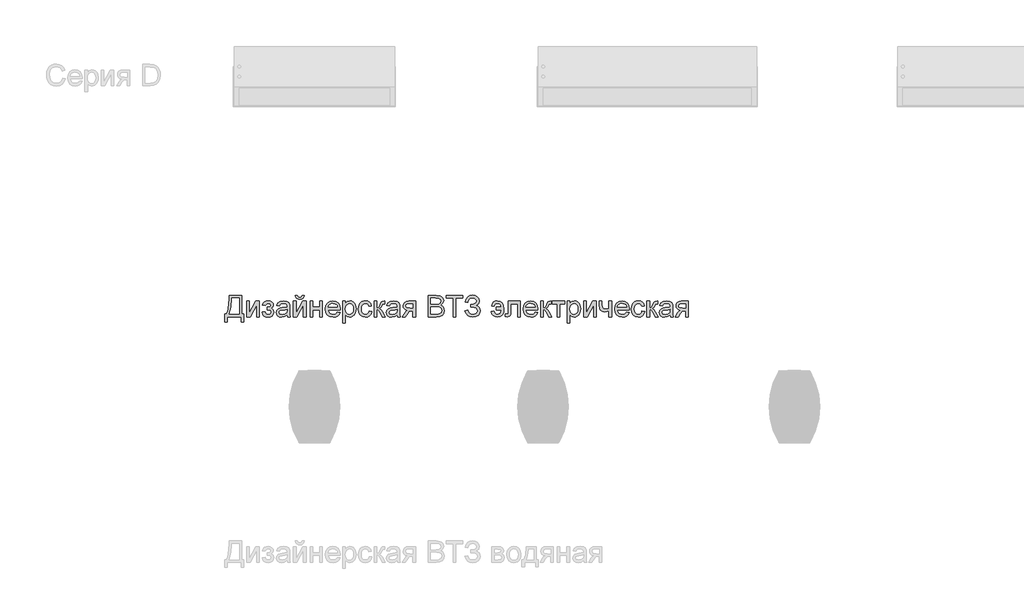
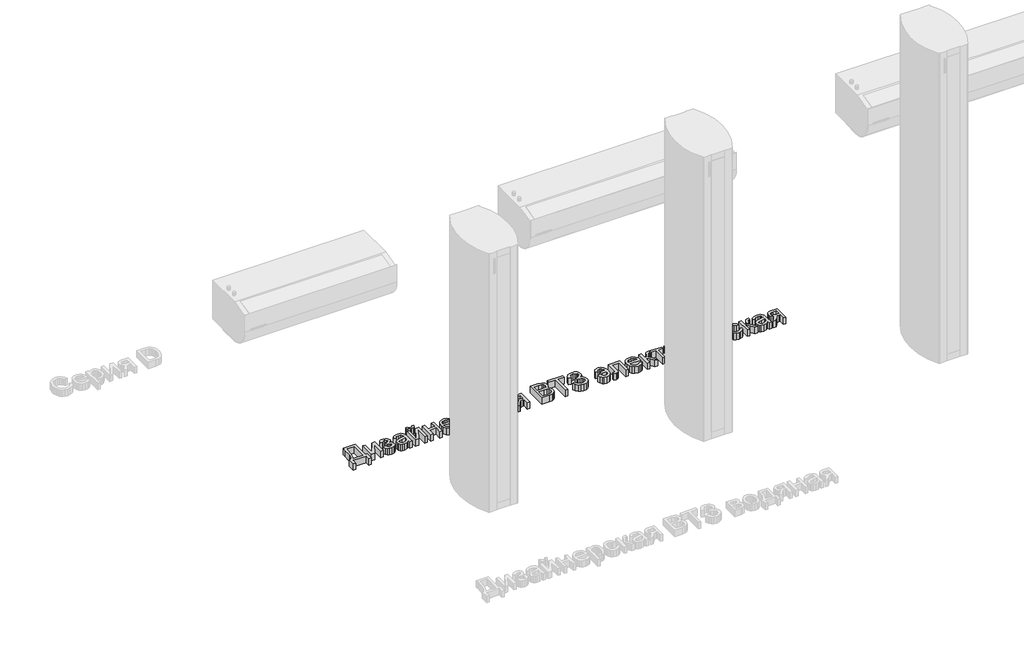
# One storey, part 4 of 6: 1 proxy.
"""IFC4 building model written with IfcOpenShell, lengths in millimetres."""

from ifc_helpers import new_model, si_unit, origin, origin_with_axes, place, context, project, spatial, polyline, outline, extrude, element, save

model = new_model("IFC4")

# Units and contexts
model_context = context("Model", 3, world=origin())
ifc_project = project(units=[si_unit("LENGTHUNIT", "METRE", prefix="MILLI")], contexts=[model_context])

# Site, building, storey
site = spatial("IfcSite", under=ifc_project)
building = spatial("IfcBuilding", under=site)
storey = spatial("IfcBuildingStorey", under=building, Name="Уровень 1", Elevation=0.0)

# Proxy
placement = place(None, origin())
element("IfcBuildingElementProxy", 1, Name="600 мм Arial", ObjectType="600 мм Arial", at=placement, inside=storey, context=model_context, shape_type="SweptSolid", body=[
    extrude(outline(polyline([(-13728.2393445, -1203.3925368), (-13640.5470368, -1203.3925368), (-13640.5470368, -1332.6233061), (-13626.700883, -1332.6233061), (-13626.700883, -1385.7002291), (-13645.1624214, -1385.7002291), (-13645.1624214, -1351.0848445), (-13739.777806, -1351.0848445), (-13739.777806, -1385.7002291), (-13758.2393445, -1385.7002291), (-13758.2393445, -1332.6233061), (-13746.700883, -1332.6233061), (-13738.6239599, -1315.8767616), (-13732.8547291, -1292.3198205), (-13728.2393445, -1224.7747484), (-13728.2393445, -1203.3925368)]), holes=[polyline([(-13659.0085753, -1221.8540753), (-13709.777806, -1221.8540753), (-13709.777806, -1229.2819599), (-13713.527806, -1279.8709022), (-13719.0806907, -1309.1046762), (-13728.2393445, -1332.6233061), (-13659.0085753, -1332.6233061), (-13659.0085753, -1221.8540753)])]), origin_with_axes(), (0.0, 0.0, 1.0), 50.0),
    extrude(outline(polyline([(-13605.9316522, -1242.6233061), (-13587.4701137, -1242.6233061), (-13587.4701137, -1325.3396522), (-13542.1095368, -1242.6233061), (-13518.2393445, -1242.6233061), (-13518.2393445, -1351.0848445), (-13536.700883, -1351.0848445), (-13536.700883, -1268.8733061), (-13581.7729983, -1351.0848445), (-13605.9316522, -1351.0848445), (-13605.9316522, -1242.6233061)])), origin_with_axes(), (0.0, 0.0, 1.0), 50.0),
    extrude(outline(polyline([(-13465.1624214, -1302.6233061), (-13465.1624214, -1284.1617676), (-13450.5951137, -1283.4406137), (-13443.2393445, -1279.6004695), (-13439.777806, -1271.577633), (-13444.4112195, -1262.2567195), (-13456.3643445, -1258.7771522), (-13468.7141041, -1262.2386907), (-13476.700883, -1272.6233061), (-13497.4701137, -1270.3156137), (-13491.9623012, -1257.1906137), (-13483.5879022, -1247.8156137), (-13472.3469166, -1242.1906137), (-13458.2393445, -1240.3156137), (-13442.8066522, -1242.60077), (-13431.1239599, -1249.4562387), (-13423.7681907, -1259.4847844), (-13421.3162676, -1271.2891714), (-13424.8048493, -1282.7555176), (-13435.2705945, -1291.6257099), (-13423.0650657, -1303.1281137), (-13419.0085753, -1319.6785945), (-13421.5821931, -1333.2678373), (-13429.3030464, -1344.0355657), (-13441.6482988, -1351.053294), (-13458.0951137, -1353.3925368), (-13474.1813517, -1351.2290753), (-13486.4905464, -1344.7386907), (-13495.0226979, -1333.921383), (-13499.777806, -1318.7771522), (-13479.0085753, -1316.4694599), (-13470.6792483, -1330.0992676), (-13456.3282868, -1334.9309984), (-13442.8427099, -1330.2975849), (-13437.4701137, -1318.452633), (-13440.8054503, -1308.7531137), (-13447.9088157, -1303.5608061), (-13461.5566522, -1302.515133), (-13465.1624214, -1302.6233061)])), origin_with_axes(), (0.0, 0.0, 1.0), 50.0),
    extrude(outline(polyline([(-13326.700883, -1337.2386907), (-13344.6035272, -1349.7507099), (-13364.3811714, -1353.3925368), (-13379.8093565, -1351.202032), (-13391.1900657, -1344.6305176), (-13398.207794, -1334.6515512), (-13400.5470368, -1322.2386907), (-13397.013383, -1307.6353253), (-13387.7285272, -1297.0343637), (-13374.8018445, -1290.9766714), (-13358.8282868, -1288.2002291), (-13326.809056, -1281.8540753), (-13326.700883, -1277.7434984), (-13327.9719166, -1269.5043157), (-13331.7850176, -1264.1136907), (-13340.3126618, -1260.1112868), (-13352.1936714, -1258.7771522), (-13370.871556, -1262.3288349), (-13379.777806, -1274.9309984), (-13398.2393445, -1272.6233061), (-13390.2525657, -1254.5944599), (-13374.1708349, -1244.0295561), (-13349.8138637, -1240.3156137), (-13327.4400657, -1243.5968637), (-13314.8018445, -1251.8360464), (-13309.1407868, -1264.3660945), (-13308.2393445, -1280.5199407), (-13308.2393445, -1303.4886907), (-13307.3018445, -1335.562008), (-13303.6239599, -1351.0848445), (-13322.0854983, -1351.0848445), (-13326.700883, -1337.2386907)]), holes=[polyline([(-13326.700883, -1300.3156137), (-13356.4845368, -1305.9766714), (-13372.3679503, -1308.9694599), (-13379.5614599, -1313.8372484), (-13382.0854983, -1320.9406137), (-13376.5867003, -1330.9285945), (-13360.450883, -1334.9309984), (-13341.7729983, -1330.5139311), (-13329.7297291, -1319.8228253), (-13326.809056, -1305.5439791), (-13326.700883, -1300.3156137)])]), origin_with_axes(), (0.0, 0.0, 1.0), 50.0),
    extrude(outline(polyline([(-13222.8547291, -1203.3925368), (-13209.0085753, -1203.3925368), (-13211.9878421, -1215.2149527), (-13217.9689118, -1223.9273926), (-13226.6813517, -1229.2954815), (-13237.8547291, -1231.0848445), (-13249.9791282, -1229.3090032), (-13259.3811714, -1223.9814791), (-13265.8084551, -1215.2825609), (-13269.0085753, -1203.3925368), (-13255.1624214, -1203.3925368), (-13249.9701137, -1213.7951811), (-13239.513383, -1217.2386907), (-13228.0470368, -1213.9033541), (-13222.8547291, -1203.3925368)])), origin_with_axes(), (0.0, 0.0, 1.0), 50.0),
    extrude(outline(polyline([(-13282.8547291, -1242.6233061), (-13264.3931907, -1242.6233061), (-13264.3931907, -1325.3396522), (-13219.0326137, -1242.6233061), (-13195.1624214, -1242.6233061), (-13195.1624214, -1351.0848445), (-13213.6239599, -1351.0848445), (-13213.6239599, -1268.8733061), (-13258.6960753, -1351.0848445), (-13282.8547291, -1351.0848445), (-13282.8547291, -1242.6233061)])), origin_with_axes(), (0.0, 0.0, 1.0), 50.0),
    extrude(outline(polyline([(-13167.4701137, -1242.6233061), (-13149.0085753, -1242.6233061), (-13149.0085753, -1284.1617676), (-13100.5470368, -1284.1617676), (-13100.5470368, -1242.6233061), (-13082.0854983, -1242.6233061), (-13082.0854983, -1351.0848445), (-13100.5470368, -1351.0848445), (-13100.5470368, -1302.6233061), (-13149.0085753, -1302.6233061), (-13149.0085753, -1351.0848445), (-13167.4701137, -1351.0848445), (-13167.4701137, -1242.6233061)])), origin_with_axes(), (0.0, 0.0, 1.0), 50.0),
    extrude(outline(polyline([(-12978.4556907, -1318.7771522), (-12960.3547291, -1321.0848445), (-12966.8766642, -1334.7236666), (-12977.2838157, -1344.9189791), (-12991.3418084, -1351.2741474), (-13008.8162676, -1353.3925368), (-13030.4779262, -1349.7371883), (-13047.1455945, -1338.7711426), (-13057.7735993, -1321.2065392), (-13061.3162676, -1297.7555176), (-13057.7375416, -1273.5157339), (-13047.0013637, -1255.3877291), (-13030.559056, -1244.0836426), (-13009.8619407, -1240.3156137), (-12989.8093565, -1244.0746282), (-12973.7862195, -1255.3516714), (-12963.2799094, -1273.4436186), (-12959.777806, -1297.6473445), (-12959.8859791, -1302.6233061), (-13042.8547291, -1302.6233061), (-13039.6591161, -1316.4424166), (-13032.2357387, -1326.6016714), (-13021.5220969, -1332.8486666), (-13008.4556907, -1334.9309984), (-12990.3547291, -1331.0728253), (-12978.4556907, -1318.7771522)]), holes=[polyline([(-13042.8547291, -1284.1617676), (-12978.2393445, -1284.1617676), (-12980.7363397, -1274.4081618), (-12985.6311714, -1267.4309984), (-12996.3943926, -1260.9406137), (-13009.934056, -1258.7771522), (-13022.3784671, -1260.5034142), (-13032.668431, -1265.6822003), (-13039.8213758, -1273.7546162), (-13042.8547291, -1284.1617676)])]), origin_with_axes(), (0.0, 0.0, 1.0), 50.0),
    extrude(outline(polyline([(-12941.3162676, -1392.6233061), (-12941.3162676, -1242.6233061), (-12922.8547291, -1242.6233061), (-12922.8547291, -1260.7242676), (-12910.090306, -1245.4177772), (-12892.8547291, -1240.3156137), (-12880.3697532, -1242.1004695), (-12869.4532868, -1247.4550368), (-12860.5650657, -1256.0547964), (-12854.1648253, -1267.5752291), (-12849.0085753, -1296.0247484), (-12850.4644046, -1311.8135104), (-12854.8318926, -1325.9346041), (-12861.9713157, -1337.671383), (-12871.7429503, -1346.3072003), (-12883.1236594, -1351.6212027), (-12895.090306, -1353.3925368), (-12911.154008, -1348.6509503), (-12922.8547291, -1336.6617676), (-12922.8547291, -1392.6233061), (-12941.3162676, -1392.6233061)]), holes=[polyline([(-12922.8547291, -1297.7194599), (-12920.8580344, -1314.2699407), (-12914.8679503, -1325.8444599), (-12906.0293084, -1332.6593637), (-12895.4869407, -1334.9309984), (-12884.7732988, -1332.5782339), (-12875.7092964, -1325.5199407), (-12869.5299094, -1313.5217436), (-12867.4701137, -1296.3492676), (-12869.4803301, -1279.8889311), (-12875.5109791, -1268.1521522), (-12884.3360993, -1261.1209022), (-12894.7297291, -1258.7771522), (-12905.1639238, -1261.2696402), (-12914.3270849, -1268.7471041), (-12920.7228181, -1280.975169), (-12922.8547291, -1297.7194599)])]), origin_with_axes(), (0.0, 0.0, 1.0), 50.0),
    extrude(outline(polyline([(-12759.0085753, -1311.8540753), (-12740.5470368, -1314.1617676), (-12745.6942724, -1330.5815392), (-12755.3667483, -1342.9898926), (-12768.654008, -1350.7918758), (-12784.6455945, -1353.3925368), (-12804.2835152, -1349.7642315), (-12819.6395849, -1338.8793157), (-12829.5509431, -1321.2155537), (-12832.8547291, -1297.2507099), (-12827.2117003, -1266.5836426), (-12820.090306, -1255.085746), (-12810.012181, -1246.8781137), (-12797.9553902, -1241.9562387), (-12784.8979983, -1240.3156137), (-12769.2985392, -1242.5692195), (-12756.8270849, -1249.3300368), (-12747.88027, -1260.2374887), (-12742.8547291, -1274.9309984), (-12761.3162676, -1277.2386907), (-12769.8799695, -1263.4105657), (-12784.7537676, -1258.7771522), (-12796.6843565, -1261.0578012), (-12806.154008, -1267.8997484), (-12812.333395, -1279.6725849), (-12814.3931907, -1296.7459022), (-12812.3784671, -1314.0490873), (-12806.3342964, -1325.8624887), (-12797.035919, -1332.663871), (-12785.2585753, -1334.9309984), (-12775.6987796, -1333.5157339), (-12767.8607387, -1329.2699407), (-12762.1591161, -1322.0854455), (-12759.0085753, -1311.8540753)])), origin_with_axes(), (0.0, 0.0, 1.0), 50.0),
    extrude(outline(polyline([(-12724.3931907, -1242.6233061), (-12705.9316522, -1242.6233061), (-12705.9316522, -1288.7771522), (-12693.5638637, -1285.4598445), (-12683.4316522, -1266.1329214), (-12675.012181, -1249.4562387), (-12667.5842964, -1244.0295561), (-12654.0806907, -1242.6233061), (-12650.5470368, -1242.6233061), (-12650.5470368, -1261.1930176), (-12655.5229983, -1261.0848445), (-12664.5374214, -1263.0319599), (-12670.8835753, -1275.1834022), (-12678.3294887, -1288.3264311), (-12688.7681907, -1294.7627291), (-12677.121556, -1301.9472243), (-12665.6912676, -1317.0824407), (-12645.9316522, -1351.0848445), (-12666.9172291, -1351.0848445), (-12686.2802099, -1317.8035945), (-12696.0157868, -1303.7230657), (-12705.9316522, -1300.3156137), (-12705.9316522, -1351.0848445), (-12724.3931907, -1351.0848445), (-12724.3931907, -1242.6233061)])), origin_with_axes(), (0.0, 0.0, 1.0), 50.0),
    extrude(outline(polyline([(-12565.1624214, -1337.2386907), (-12583.0650657, -1349.7507099), (-12602.8427099, -1353.3925368), (-12618.270895, -1351.202032), (-12629.6516041, -1344.6305176), (-12636.6693325, -1334.6515512), (-12639.0085753, -1322.2386907), (-12635.4749214, -1307.6353253), (-12626.1900657, -1297.0343637), (-12613.263383, -1290.9766714), (-12597.2898253, -1288.2002291), (-12565.2705945, -1281.8540753), (-12565.1624214, -1277.7434984), (-12566.4334551, -1269.5043157), (-12570.246556, -1264.1136907), (-12578.7742003, -1260.1112868), (-12590.6552099, -1258.7771522), (-12609.3330945, -1262.3288349), (-12618.2393445, -1274.9309984), (-12636.700883, -1272.6233061), (-12628.7141041, -1254.5944599), (-12612.6323733, -1244.0295561), (-12588.2754022, -1240.3156137), (-12565.9016041, -1243.5968637), (-12553.263383, -1251.8360464), (-12547.6023253, -1264.3660945), (-12546.700883, -1280.5199407), (-12546.700883, -1303.4886907), (-12545.763383, -1335.562008), (-12542.0854983, -1351.0848445), (-12560.5470368, -1351.0848445), (-12565.1624214, -1337.2386907)]), holes=[polyline([(-12565.1624214, -1300.3156137), (-12594.9460753, -1305.9766714), (-12610.8294887, -1308.9694599), (-12618.0229983, -1313.8372484), (-12620.5470368, -1320.9406137), (-12615.0482387, -1330.9285945), (-12598.9124214, -1334.9309984), (-12580.2345368, -1330.5139311), (-12568.1912676, -1319.8228253), (-12565.2705945, -1305.5439791), (-12565.1624214, -1300.3156137)])]), origin_with_axes(), (0.0, 0.0, 1.0), 50.0),
    extrude(outline(polyline([(-12438.2393445, -1242.6233061), (-12438.2393445, -1351.0848445), (-12456.700883, -1351.0848445), (-12456.700883, -1309.546383), (-12466.7609791, -1309.546383), (-12480.4629022, -1311.890133), (-12493.3354983, -1327.6473445), (-12508.0470368, -1351.0848445), (-12529.3931907, -1351.0848445), (-12510.8595368, -1321.4454214), (-12502.6744407, -1310.8084022), (-12495.138383, -1306.0848445), (-12507.7585753, -1302.217657), (-12516.6287676, -1294.8709022), (-12521.8751618, -1285.0992676), (-12523.6239599, -1273.9574407), (-12521.2351378, -1261.3192195), (-12514.0686714, -1251.3132099), (-12502.3769647, -1244.795782), (-12486.4124214, -1242.6233061), (-12438.2393445, -1242.6233061)]), holes=[polyline([(-12456.700883, -1261.0848445), (-12481.0398253, -1261.0848445), (-12493.6104383, -1262.1530537), (-12500.7453541, -1265.3576811), (-12505.1624214, -1275.3636907), (-12503.5353181, -1282.3994479), (-12498.654008, -1287.280758), (-12475.5951137, -1291.0848445), (-12456.700883, -1291.0848445), (-12456.700883, -1261.0848445)])]), origin_with_axes(), (0.0, 0.0, 1.0), 50.0),
    extrude(outline(polyline([(-12350.5470368, -1351.0848445), (-12350.5470368, -1203.3925368), (-12294.1888637, -1203.3925368), (-12266.5867003, -1207.7374887), (-12257.3108589, -1213.2498085), (-12250.2886233, -1221.0968637), (-12244.3931907, -1239.9910945), (-12249.3511233, -1257.2447003), (-12264.3330945, -1270.3156137), (-12253.8718565, -1275.7783541), (-12246.1419887, -1284.0896522), (-12241.3688517, -1294.6996282), (-12239.777806, -1307.0584022), (-12244.122758, -1326.9081618), (-12254.8859791, -1341.0427772), (-12270.949681, -1348.5427772), (-12294.621556, -1351.0848445), (-12350.5470368, -1351.0848445)]), holes=[polyline([(-12332.0854983, -1263.3925368), (-12298.371556, -1263.3925368), (-12278.684056, -1261.8059984), (-12266.8391041, -1254.9730657), (-12262.8547291, -1242.9478253), (-12266.5686714, -1230.9045561), (-12277.2056907, -1223.7831618), (-12300.9316522, -1221.8540753), (-12332.0854983, -1221.8540753), (-12332.0854983, -1263.3925368)]), polyline([(-12332.0854983, -1332.6233061), (-12294.2249214, -1332.6233061), (-12280.5229983, -1331.9021522), (-12268.9304503, -1327.8817195), (-12261.2501618, -1319.6785945), (-12258.2393445, -1307.2386907), (-12261.7729983, -1292.8877291), (-12273.2213157, -1284.3240272), (-12296.027806, -1281.8540753), (-12332.0854983, -1281.8540753), (-12332.0854983, -1332.6233061)])]), origin_with_axes(), (0.0, 0.0, 1.0), 50.0),
    extrude(outline(polyline([(-12177.4701137, -1351.0848445), (-12177.4701137, -1221.8540753), (-12225.9316522, -1221.8540753), (-12225.9316522, -1203.3925368), (-12110.5470368, -1203.3925368), (-12110.5470368, -1221.8540753), (-12159.0085753, -1221.8540753), (-12159.0085753, -1351.0848445), (-12177.4701137, -1351.0848445)])), origin_with_axes(), (0.0, 0.0, 1.0), 50.0),
    extrude(outline(polyline([(-12096.700883, -1309.546383), (-12078.2393445, -1304.9309984), (-12066.8992003, -1324.9249887), (-12056.1855584, -1332.429496), (-12042.4701137, -1334.9309984), (-12028.5743806, -1333.0514912), (-12017.9689118, -1327.4129695), (-12011.2486594, -1319.1151931), (-12009.0085753, -1309.2579214), (-12011.4559911, -1298.9318998), (-12018.7982387, -1290.9586426), (-12030.3592363, -1285.8609863), (-12045.4629022, -1284.1617676), (-12055.1624214, -1284.1617676), (-12055.1624214, -1265.7002291), (-12034.2669887, -1264.2038349), (-12021.4845368, -1256.5596041), (-12015.9316522, -1242.5872484), (-12017.7796089, -1233.8928373), (-12023.3234791, -1226.4153734), (-12032.0223974, -1221.2636306), (-12043.3354983, -1219.546383), (-12062.1756426, -1224.8288349), (-12072.9568926, -1238.8372484), (-12075.9316522, -1251.8540753), (-12094.3931907, -1247.2386907), (-12088.657764, -1227.046383), (-12078.2663878, -1212.6233061), (-12063.219062, -1203.9694599), (-12043.5157868, -1201.0848445), (-12024.5088758, -1204.0821402), (-12009.8919887, -1213.0740272), (-12000.5755825, -1226.0773325), (-11997.4701137, -1241.108883), (-12002.3018445, -1259.3811186), (-12016.7970368, -1273.0199407), (-12006.5296089, -1277.7480056), (-11998.0830945, -1285.7302772), (-11992.4310512, -1296.2816594), (-11990.5470368, -1308.7170561), (-11994.1618205, -1326.2005296), (-12005.0061714, -1340.5740272), (-12021.8180705, -1350.1879094), (-12043.3354983, -1353.3925368), (-12062.0584551, -1350.6521522), (-12077.1936714, -1342.4309984), (-12088.7411474, -1328.7290753), (-12096.700883, -1309.546383)])), origin_with_axes(), (0.0, 0.0, 1.0), 50.0),
    extrude(outline(polyline([(-11879.777806, -1284.1617676), (-11845.1624214, -1284.1617676), (-11848.0064719, -1273.9349046), (-11853.5097772, -1265.8264311), (-11861.3117604, -1260.5394719), (-11871.0518445, -1258.7771522), (-11886.0157868, -1263.3925368), (-11893.6239599, -1277.2386907), (-11912.0854983, -1274.9309984), (-11907.7811113, -1261.0713229), (-11899.4112195, -1249.9971041), (-11887.3995008, -1242.7359863), (-11872.169633, -1240.3156137), (-11853.3249815, -1244.0836426), (-11838.9064118, -1255.3877291), (-11829.7522652, -1273.2903734), (-11826.700883, -1296.8540753), (-11829.2204142, -1320.3096041), (-11837.9328541, -1338.7531137), (-11852.1711354, -1350.3817195), (-11871.2681907, -1353.3925368), (-11887.638383, -1350.6927171), (-11900.5470368, -1342.593258), (-11909.5975176, -1330.085746), (-11914.3931907, -1314.1617676), (-11895.9316522, -1311.8540753), (-11887.980931, -1329.1617676), (-11880.8279863, -1333.4886907), (-11871.5566522, -1334.9309984), (-11861.1269647, -1332.9117676), (-11853.2754022, -1326.8540753), (-11847.965907, -1316.7579214), (-11845.1624214, -1302.6233061), (-11879.777806, -1302.6233061), (-11879.777806, -1284.1617676)])), origin_with_axes(), (0.0, 0.0, 1.0), 50.0),
    extrude(outline(polyline([(-11796.700883, -1242.6233061), (-11713.6239599, -1242.6233061), (-11713.6239599, -1350.9766714), (-11732.0854983, -1350.9766714), (-11732.0854983, -1261.0848445), (-11778.2393445, -1261.0848445), (-11778.2393445, -1312.827633), (-11779.4833349, -1336.6978253), (-11786.3162676, -1346.7759503), (-11802.4701137, -1351.0848445), (-11817.4701137, -1350.1473445), (-11817.4701137, -1332.6233061), (-11809.2129022, -1332.6233061), (-11800.8655464, -1331.4874887), (-11797.5302099, -1327.8817195), (-11796.700883, -1311.7819599), (-11796.700883, -1242.6233061)])), origin_with_axes(), (0.0, 0.0, 1.0), 50.0),
    extrude(outline(polyline([(-11609.9941522, -1318.7771522), (-11591.8931907, -1321.0848445), (-11598.4151258, -1334.7236666), (-11608.8222772, -1344.9189791), (-11622.88027, -1351.2741474), (-11640.3547291, -1353.3925368), (-11662.0163878, -1349.7371883), (-11678.684056, -1338.7711426), (-11689.3120608, -1321.2065392), (-11692.8547291, -1297.7555176), (-11689.2760032, -1273.5157339), (-11678.5398253, -1255.3877291), (-11662.0975176, -1244.0836426), (-11641.4004022, -1240.3156137), (-11621.3478181, -1244.0746282), (-11605.324681, -1255.3516714), (-11594.8183709, -1273.4436186), (-11591.3162676, -1297.6473445), (-11591.4244407, -1302.6233061), (-11674.3931907, -1302.6233061), (-11671.1975777, -1316.4424166), (-11663.7742003, -1326.6016714), (-11653.0605584, -1332.8486666), (-11639.9941522, -1334.9309984), (-11621.8931907, -1331.0728253), (-11609.9941522, -1318.7771522)]), holes=[polyline([(-11674.3931907, -1284.1617676), (-11609.777806, -1284.1617676), (-11612.2748012, -1274.4081618), (-11617.169633, -1267.4309984), (-11627.9328541, -1260.9406137), (-11641.4725176, -1258.7771522), (-11653.9169286, -1260.5034142), (-11664.2068926, -1265.6822003), (-11671.3598373, -1273.7546162), (-11674.3931907, -1284.1617676)])]), origin_with_axes(), (0.0, 0.0, 1.0), 50.0),
    extrude(outline(polyline([(-11572.8547291, -1242.6233061), (-11554.3931907, -1242.6233061), (-11554.3931907, -1288.7771522), (-11542.0254022, -1285.4598445), (-11531.8931907, -1266.1329214), (-11523.4737195, -1249.4562387), (-11516.0458349, -1244.0295561), (-11502.5422291, -1242.6233061), (-11499.0085753, -1242.6233061), (-11499.0085753, -1261.1930176), (-11503.9845368, -1261.0848445), (-11512.9989599, -1263.0319599), (-11519.3451137, -1275.1834022), (-11526.7910272, -1288.3264311), (-11537.2297291, -1294.7627291), (-11525.5830945, -1301.9472243), (-11514.152806, -1317.0824407), (-11494.3931907, -1351.0848445), (-11515.3787676, -1351.0848445), (-11534.7417483, -1317.8035945), (-11544.4773253, -1303.7230657), (-11554.3931907, -1300.3156137), (-11554.3931907, -1351.0848445), (-11572.8547291, -1351.0848445), (-11572.8547291, -1242.6233061)])), origin_with_axes(), (0.0, 0.0, 1.0), 50.0),
    extrude(outline(polyline([(-11492.0854983, -1242.6233061), (-11404.3931907, -1242.6233061), (-11404.3931907, -1261.0848445), (-11439.0085753, -1261.0848445), (-11439.0085753, -1351.0848445), (-11457.4701137, -1351.0848445), (-11457.4701137, -1261.0848445), (-11492.0854983, -1261.0848445), (-11492.0854983, -1242.6233061)])), origin_with_axes(), (0.0, 0.0, 1.0), 50.0),
    extrude(outline(polyline([(-11388.2393445, -1392.6233061), (-11388.2393445, -1242.6233061), (-11369.777806, -1242.6233061), (-11369.777806, -1260.7242676), (-11357.013383, -1245.4177772), (-11339.777806, -1240.3156137), (-11327.2928301, -1242.1004695), (-11316.3763637, -1247.4550368), (-11307.4881426, -1256.0547964), (-11301.0879022, -1267.5752291), (-11295.9316522, -1296.0247484), (-11297.3874815, -1311.8135104), (-11301.7549695, -1325.9346041), (-11308.8943926, -1337.671383), (-11318.6660272, -1346.3072003), (-11330.0467363, -1351.6212027), (-11342.013383, -1353.3925368), (-11358.0770849, -1348.6509503), (-11369.777806, -1336.6617676), (-11369.777806, -1392.6233061), (-11388.2393445, -1392.6233061)]), holes=[polyline([(-11369.777806, -1297.7194599), (-11367.7811113, -1314.2699407), (-11361.7910272, -1325.8444599), (-11352.9523854, -1332.6593637), (-11342.4100176, -1334.9309984), (-11331.6963758, -1332.5782339), (-11322.6323733, -1325.5199407), (-11316.4529863, -1313.5217436), (-11314.3931907, -1296.3492676), (-11316.403407, -1279.8889311), (-11322.434056, -1268.1521522), (-11331.2591762, -1261.1209022), (-11341.652806, -1258.7771522), (-11352.0870008, -1261.2696402), (-11361.2501618, -1268.7471041), (-11367.645895, -1280.975169), (-11369.777806, -1297.7194599)])]), origin_with_axes(), (0.0, 0.0, 1.0), 50.0),
    extrude(outline(polyline([(-11275.1624214, -1242.6233061), (-11256.700883, -1242.6233061), (-11256.700883, -1325.3396522), (-11211.340306, -1242.6233061), (-11187.4701137, -1242.6233061), (-11187.4701137, -1351.0848445), (-11205.9316522, -1351.0848445), (-11205.9316522, -1268.8733061), (-11251.0037676, -1351.0848445), (-11275.1624214, -1351.0848445), (-11275.1624214, -1242.6233061)])), origin_with_axes(), (0.0, 0.0, 1.0), 50.0),
    extrude(outline(polyline([(-11166.700883, -1242.6233061), (-11148.2393445, -1242.6233061), (-11148.2393445, -1263.4285945), (-11146.7429503, -1282.9358061), (-11139.5494407, -1293.5007099), (-11125.2705945, -1298.0079214), (-11099.777806, -1292.4189791), (-11099.777806, -1242.6233061), (-11081.3162676, -1242.6233061), (-11081.3162676, -1351.0848445), (-11099.777806, -1351.0848445), (-11099.777806, -1310.1233061), (-11130.2104983, -1316.4694599), (-11141.3748613, -1314.8153133), (-11151.1419887, -1309.8528734), (-11158.754669, -1302.4925969), (-11163.4556907, -1293.6449407), (-11166.700883, -1272.5511907), (-11166.700883, -1242.6233061)])), origin_with_axes(), (0.0, 0.0, 1.0), 50.0),
    extrude(outline(polyline([(-10977.6864599, -1318.7771522), (-10959.5854983, -1321.0848445), (-10966.1074334, -1334.7236666), (-10976.5145849, -1344.9189791), (-10990.5725777, -1351.2741474), (-11008.0470368, -1353.3925368), (-11029.7086955, -1349.7371883), (-11046.3763637, -1338.7711426), (-11057.0043685, -1321.2065392), (-11060.5470368, -1297.7555176), (-11056.9683108, -1273.5157339), (-11046.232133, -1255.3877291), (-11029.7898253, -1244.0836426), (-11009.0927099, -1240.3156137), (-10989.0401258, -1244.0746282), (-10973.0169887, -1255.3516714), (-10962.5106786, -1273.4436186), (-10959.0085753, -1297.6473445), (-10959.1167483, -1302.6233061), (-11042.0854983, -1302.6233061), (-11038.8898854, -1316.4424166), (-11031.466508, -1326.6016714), (-11020.7528661, -1332.8486666), (-11007.6864599, -1334.9309984), (-10989.5854983, -1331.0728253), (-10977.6864599, -1318.7771522)]), holes=[polyline([(-11042.0854983, -1284.1617676), (-10977.4701137, -1284.1617676), (-10979.9671089, -1274.4081618), (-10984.8619407, -1267.4309984), (-10995.6251618, -1260.9406137), (-11009.1648253, -1258.7771522), (-11021.6092363, -1260.5034142), (-11031.8992003, -1265.6822003), (-11039.052145, -1273.7546162), (-11042.0854983, -1284.1617676)])]), origin_with_axes(), (0.0, 0.0, 1.0), 50.0),
    extrude(outline(polyline([(-10871.3162676, -1311.8540753), (-10852.8547291, -1314.1617676), (-10858.0019647, -1330.5815392), (-10867.6744407, -1342.9898926), (-10880.9617003, -1350.7918758), (-10896.9532868, -1353.3925368), (-10916.5912075, -1349.7642315), (-10931.9472772, -1338.8793157), (-10941.8586354, -1321.2155537), (-10945.1624214, -1297.2507099), (-10939.5193926, -1266.5836426), (-10932.3979983, -1255.085746), (-10922.3198733, -1246.8781137), (-10910.2630825, -1241.9562387), (-10897.2056907, -1240.3156137), (-10881.6062315, -1242.5692195), (-10869.1347772, -1249.3300368), (-10860.1879623, -1260.2374887), (-10855.1624214, -1274.9309984), (-10873.6239599, -1277.2386907), (-10882.1876618, -1263.4105657), (-10897.0614599, -1258.7771522), (-10908.9920488, -1261.0578012), (-10918.4617003, -1267.8997484), (-10924.6410873, -1279.6725849), (-10926.700883, -1296.7459022), (-10924.6861594, -1314.0490873), (-10918.6419887, -1325.8624887), (-10909.3436113, -1332.663871), (-10897.5662676, -1334.9309984), (-10888.0064719, -1333.5157339), (-10880.168431, -1329.2699407), (-10874.4668084, -1322.0854455), (-10871.3162676, -1311.8540753)])), origin_with_axes(), (0.0, 0.0, 1.0), 50.0),
    extrude(outline(polyline([(-10836.700883, -1242.6233061), (-10818.2393445, -1242.6233061), (-10818.2393445, -1288.7771522), (-10805.871556, -1285.4598445), (-10795.7393445, -1266.1329214), (-10787.3198733, -1249.4562387), (-10779.8919887, -1244.0295561), (-10766.388383, -1242.6233061), (-10762.8547291, -1242.6233061), (-10762.8547291, -1261.1930176), (-10767.8306907, -1261.0848445), (-10776.8451137, -1263.0319599), (-10783.1912676, -1275.1834022), (-10790.637181, -1288.3264311), (-10801.075883, -1294.7627291), (-10789.4292483, -1301.9472243), (-10777.9989599, -1317.0824407), (-10758.2393445, -1351.0848445), (-10779.2249214, -1351.0848445), (-10798.5879022, -1317.8035945), (-10808.3234791, -1303.7230657), (-10818.2393445, -1300.3156137), (-10818.2393445, -1351.0848445), (-10836.700883, -1351.0848445), (-10836.700883, -1242.6233061)])), origin_with_axes(), (0.0, 0.0, 1.0), 50.0),
    extrude(outline(polyline([(-10677.4701137, -1337.2386907), (-10695.372758, -1349.7507099), (-10715.1504022, -1353.3925368), (-10730.5785873, -1351.202032), (-10741.9592964, -1344.6305176), (-10748.9770248, -1334.6515512), (-10751.3162676, -1322.2386907), (-10747.7826137, -1307.6353253), (-10738.497758, -1297.0343637), (-10725.5710753, -1290.9766714), (-10709.5975176, -1288.2002291), (-10677.5782868, -1281.8540753), (-10677.4701137, -1277.7434984), (-10678.7411474, -1269.5043157), (-10682.5542483, -1264.1136907), (-10691.0818926, -1260.1112868), (-10702.9629022, -1258.7771522), (-10721.6407868, -1262.3288349), (-10730.5470368, -1274.9309984), (-10749.0085753, -1272.6233061), (-10741.0217964, -1254.5944599), (-10724.9400657, -1244.0295561), (-10700.5830945, -1240.3156137), (-10678.2092964, -1243.5968637), (-10665.5710753, -1251.8360464), (-10659.9100176, -1264.3660945), (-10659.0085753, -1280.5199407), (-10659.0085753, -1303.4886907), (-10658.0710753, -1335.562008), (-10654.3931907, -1351.0848445), (-10672.8547291, -1351.0848445), (-10677.4701137, -1337.2386907)]), holes=[polyline([(-10677.4701137, -1300.3156137), (-10707.2537676, -1305.9766714), (-10723.137181, -1308.9694599), (-10730.3306907, -1313.8372484), (-10732.8547291, -1320.9406137), (-10727.355931, -1330.9285945), (-10711.2201137, -1334.9309984), (-10692.5422291, -1330.5139311), (-10680.4989599, -1319.8228253), (-10677.5782868, -1305.5439791), (-10677.4701137, -1300.3156137)])]), origin_with_axes(), (0.0, 0.0, 1.0), 50.0),
    extrude(outline(polyline([(-10550.5470368, -1242.6233061), (-10550.5470368, -1351.0848445), (-10569.0085753, -1351.0848445), (-10569.0085753, -1309.546383), (-10579.0686714, -1309.546383), (-10592.7705945, -1311.890133), (-10605.6431907, -1327.6473445), (-10620.3547291, -1351.0848445), (-10641.700883, -1351.0848445), (-10623.1672291, -1321.4454214), (-10614.982133, -1310.8084022), (-10607.4460753, -1306.0848445), (-10620.0662676, -1302.217657), (-10628.9364599, -1294.8709022), (-10634.1828541, -1285.0992676), (-10635.9316522, -1273.9574407), (-10633.5428301, -1261.3192195), (-10626.3763637, -1251.3132099), (-10614.684657, -1244.795782), (-10598.7201137, -1242.6233061), (-10550.5470368, -1242.6233061)]), holes=[polyline([(-10569.0085753, -1261.0848445), (-10593.3475176, -1261.0848445), (-10605.9181306, -1262.1530537), (-10613.0530464, -1265.3576811), (-10617.4701137, -1275.3636907), (-10615.8430104, -1282.3994479), (-10610.9617003, -1287.280758), (-10587.902806, -1291.0848445), (-10569.0085753, -1291.0848445), (-10569.0085753, -1261.0848445)])]), origin_with_axes(), (0.0, 0.0, 1.0), 50.0),
])

save(model, "model.ifc")
